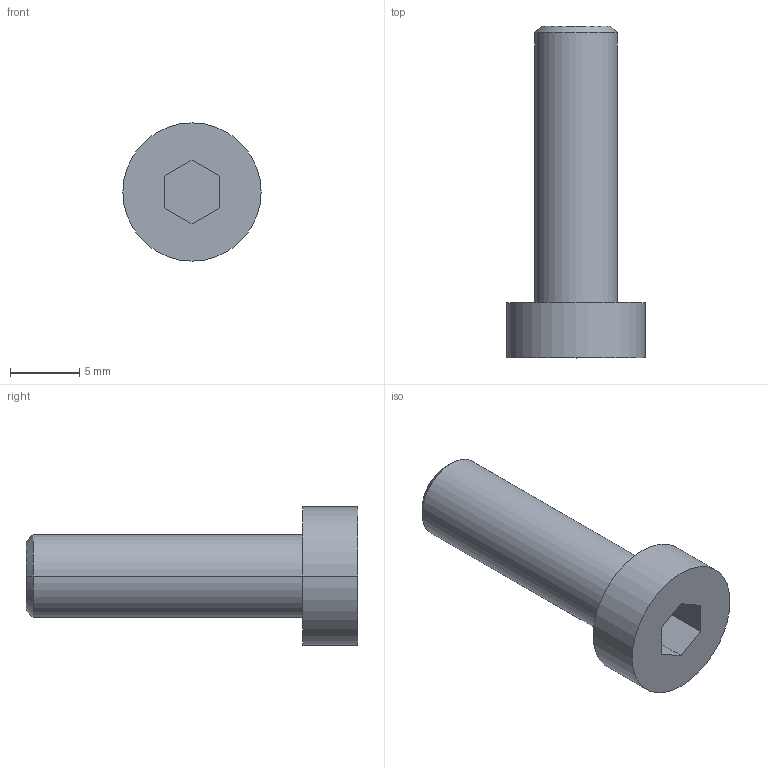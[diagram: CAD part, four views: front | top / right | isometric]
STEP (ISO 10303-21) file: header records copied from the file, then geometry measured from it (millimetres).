
FILE_DESCRIPTION((''),'2;1');
FILE_NAME('VTCEI0620','2002-12-27T',('Lipro doo'),('Lipro d.o.o.'),'PRO/ENGINEER BY PARAMETRIC TECHNOLOGY CORPORATION, 2001150','PRO/ENGINEER BY PARAMETRIC TECHNOLOGY CORPORATION, 2001150','');
FILE_SCHEMA(('CONFIG_CONTROL_DESIGN'));
Length unit declared in the file: millimetre
Products named in the file (1): VTCEI0620
Bounding box: 10 x 24 x 10 mm (x, y, z)
Volume: 835.9 mm3; surface area: 1009.6 mm2
Topology: 1 solids, 2 shells, 18 faces, 40 edges, 26 vertices
Faces by surface type: plane 10, cylinder 6, cone 2
Entity records: 546 total; most frequent: DIRECTION 92, CARTESIAN_POINT 85, ORIENTED_EDGE 76, EDGE_CURVE 40, AXIS2_PLACEMENT_3D 33, VECTOR 26, LINE 26, VERTEX_POINT 26
